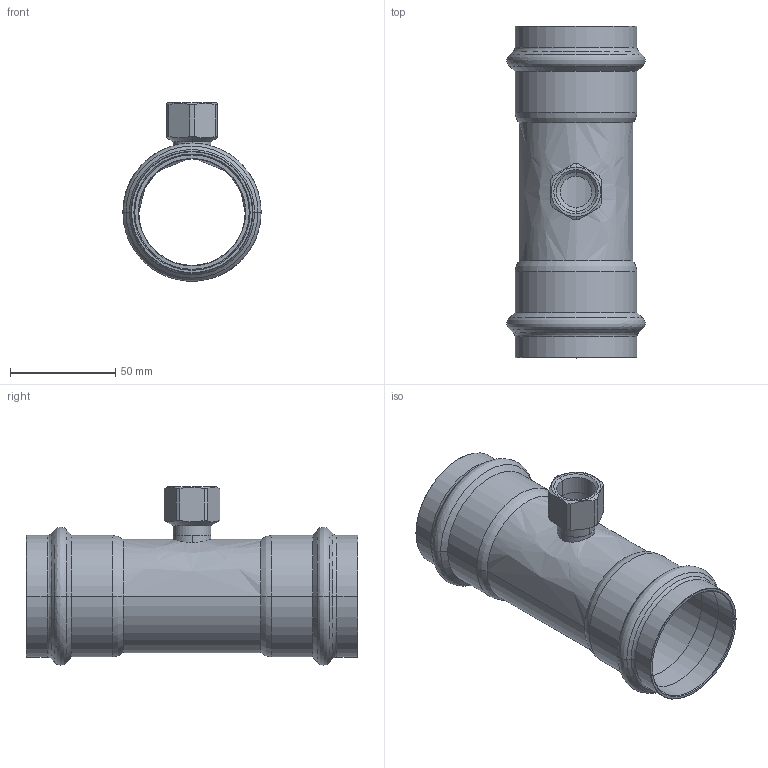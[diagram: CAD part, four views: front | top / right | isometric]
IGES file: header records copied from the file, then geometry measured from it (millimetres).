
Start section: Elysium IGES Interface
Global section: file name: C:\Users\Wallenburg\Desktop\3d modellen sudo\S-Pr VP\SP6130GV\6130GVW541254.igs; native system: CoCreate Modeling 17.00A  17-Jun-2010; preprocessor: CoCreate IGES_3D V2.2; author: Unknown; organization: Unknown; date: 20130123.151818; units: millimetre
Bounding box: 65.68 x 157.73 x 84.83 mm (x, y, z)
Volume: 60675 mm3; surface area: 60751.2 mm2
Topology: 1 solids, 1 shells, 117 faces, 254 edges, 146 vertices
Faces by surface type: bspline 117
